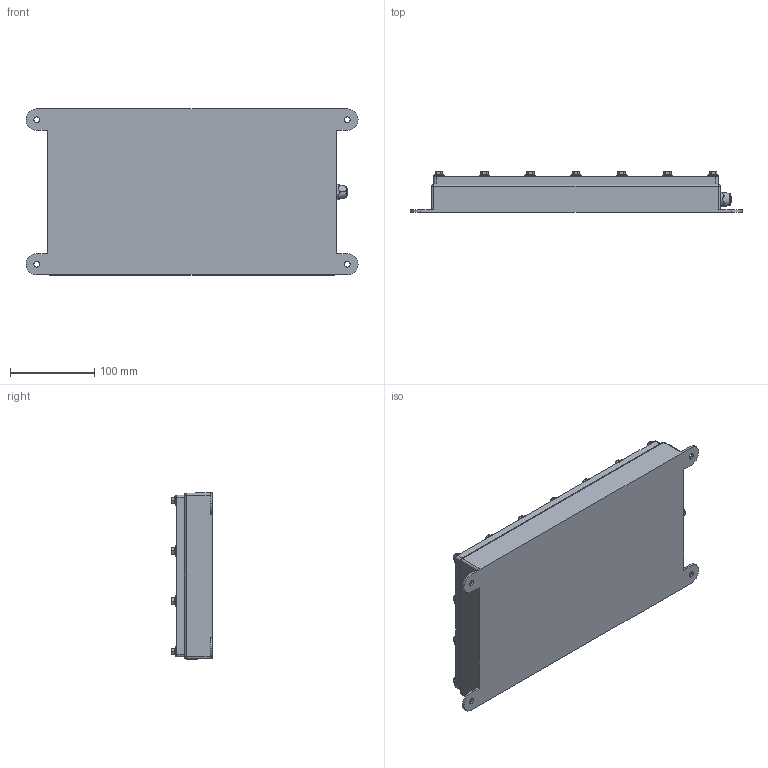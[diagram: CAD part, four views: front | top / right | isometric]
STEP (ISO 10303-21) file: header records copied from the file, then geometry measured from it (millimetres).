
FILE_DESCRIPTION (( 'STEP AP214' ), '1' );
FILE_NAME ('SOBLW-300x150.STEP', '2010-07-29T12:51:53', ( 'Chris Mcgeary' ), ( 'Allison Park Group' ), 'SwSTEP 2.0', 'SolidWorks 2010', '' );
FILE_SCHEMA (( 'AUTOMOTIVE_DESIGN' ));
Length unit declared in the file: millimetre
Products named in the file (1): SOBLW-300x150
Bounding box: 393.7 x 48.23 x 196.85 mm (x, y, z)
Volume: 2837187.5 mm3; surface area: 189979.5 mm2
Topology: 1 solids, 1 shells, 653 faces, 1555 edges, 960 vertices
Faces by surface type: plane 307, cylinder 187, cone 110, bspline 49
Entity records: 20862 total; most frequent: CARTESIAN_POINT 5899, DIRECTION 3186, ORIENTED_EDGE 3102, EDGE_CURVE 1551, AXIS2_PLACEMENT_3D 1247, VERTEX_POINT 960, EDGE_LOOP 721, LINE 692
